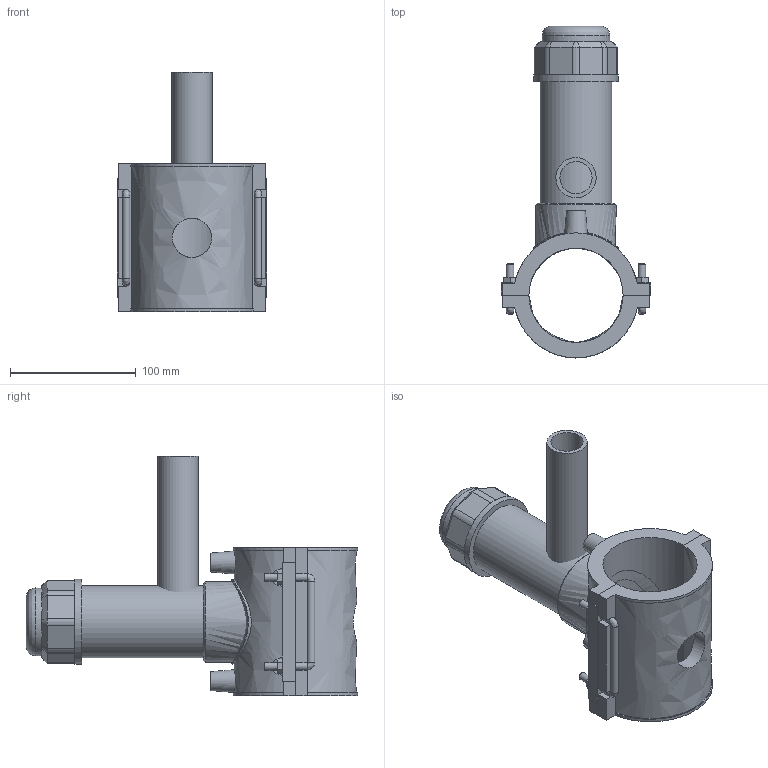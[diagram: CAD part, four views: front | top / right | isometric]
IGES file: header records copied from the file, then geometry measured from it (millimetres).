
Global section: file name: 4963P4075032; native system: Autodesk Inventor 2019; preprocessor: unknown; author: KIM; date: 20220317.112611; units: millimetre
Bounding box: 119 x 264.22 x 191 mm (x, y, z)
Volume: 729191.1 mm3; surface area: 181845.4 mm2
Topology: 3 solids, 3 shells, 186 faces, 485 edges, 312 vertices
Faces by surface type: bspline 186
